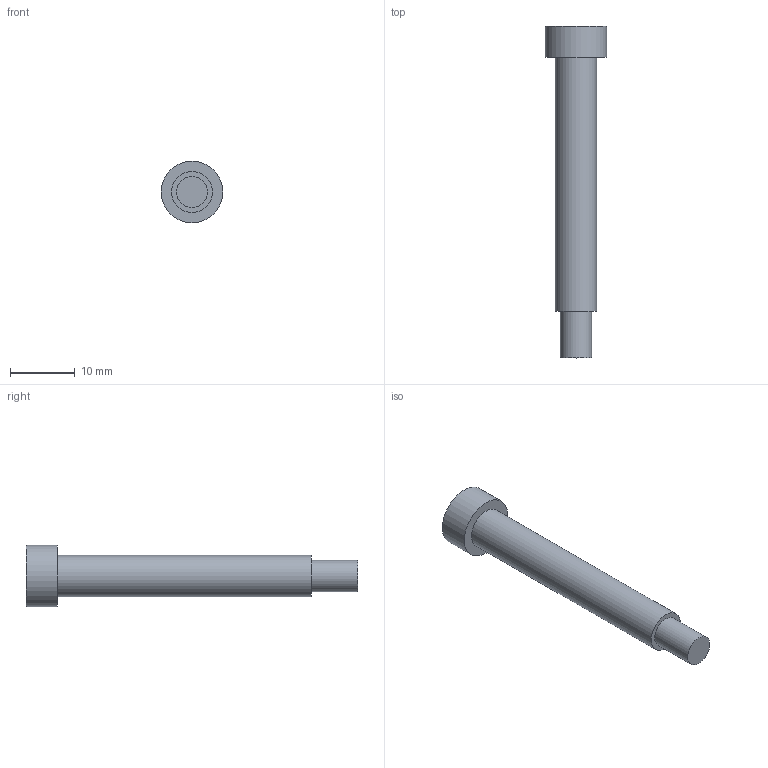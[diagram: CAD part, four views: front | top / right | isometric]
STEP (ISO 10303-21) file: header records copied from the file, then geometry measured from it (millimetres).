
FILE_DESCRIPTION(('Open CASCADE Model'),'2;1');
FILE_NAME('Open CASCADE Shape Model','2026-10-17T21:54:41',('Author'),( 'Open CASCADE'),'Open CASCADE STEP processor 7.9','Open CASCADE 7.9' ,'Unknown');
FILE_SCHEMA(('AUTOMOTIVE_DESIGN { 1 0 10303 214 1 1 1 1 }'));
Length unit declared in the file: millimetre
Products named in the file (1): Open CASCADE STEP translator 7.9 2
Bounding box: 9.5 x 51.2 x 9.5 mm (x, y, z)
Volume: 1712 mm3; surface area: 1175.6 mm2
Topology: 1 solids, 1 shells, 7 faces, 9 edges, 6 vertices
Faces by surface type: plane 4, cylinder 3
Full cylindrical faces by diameter (mm): 4.8 x1, 6.35 x1, 9.5 x1
Entity records: 279 total; most frequent: DIRECTION 48, CARTESIAN_POINT 47, ORIENTED_EDGE 18, PCURVE 18, DEFINITIONAL_REPRESENTATION 18, LINE 15, VECTOR 15, AXIS2_PLACEMENT_3D 14
